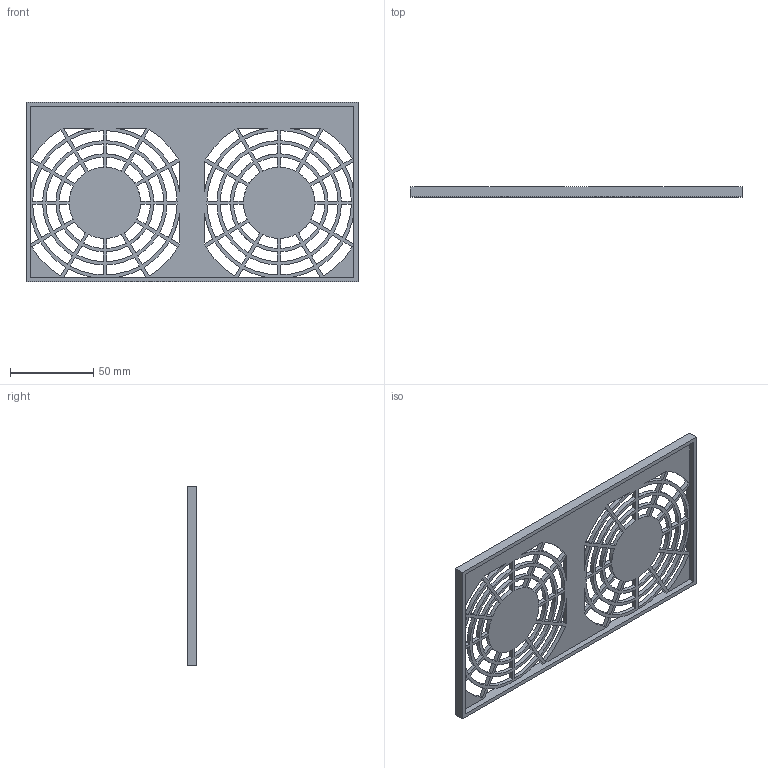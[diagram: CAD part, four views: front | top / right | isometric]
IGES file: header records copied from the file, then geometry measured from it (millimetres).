
Start section:  PTC IGES file: j4-22k-fancover.igs
Global section: file name: j4-22k-fancover.igs; native system: Pro/ENGINEER by Parametric Technology Corporation; preprocessor: 2010160; author: JE18792; organization: Unknown; date: 20121101.153740; units: millimetre
Bounding box: 200 x 6 x 108 mm (x, y, z)
Volume: 38730.6 mm3; surface area: 42871.2 mm2
Topology: 1 solids, 1 shells, 371 faces, 1128 edges, 752 vertices
Faces by surface type: bspline 371
